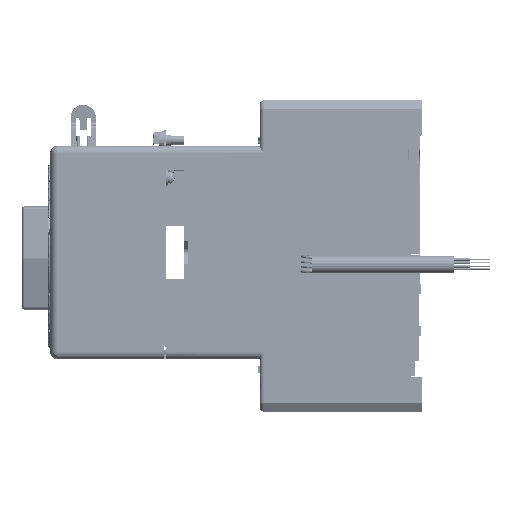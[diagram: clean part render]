
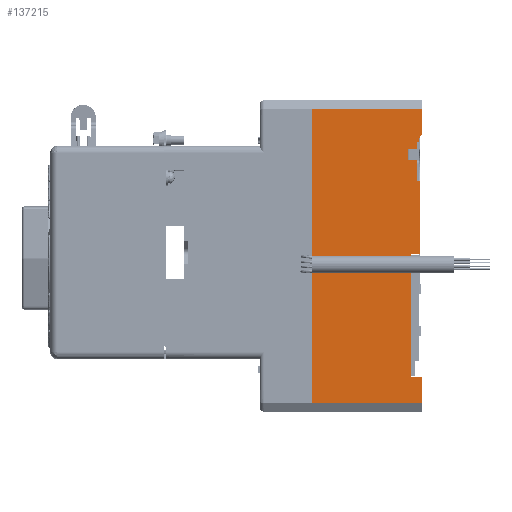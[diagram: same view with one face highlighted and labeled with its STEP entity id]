
A CAD part, left-side view. The second image highlights one B-rep face of the part: STEP entity #137215.
In plain terms, the highlighted planar face has unit normal (-1, 0, 0).
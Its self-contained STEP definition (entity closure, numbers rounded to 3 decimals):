
#6528 = CARTESIAN_POINT ( 'NONE',  ( -63.043, 38.596, 63.82 ) ) ;
#10931 = CARTESIAN_POINT ( 'NONE',  ( -63.043, 38.596, 60.23 ) ) ;
#19299 = ORIENTED_EDGE ( 'NONE', *, *, #37767, .T. ) ;
#19706 = DIRECTION ( 'NONE',  ( 0., -1., 0. ) ) ;
#19707 = VECTOR ( 'NONE', #19706, 1000. ) ;
#19708 = CARTESIAN_POINT ( 'NONE',  ( -63.043, 35.756, 63.82 ) ) ;
#19709 = LINE ( 'NONE', #19708, #19707 ) ;
#19741 = VERTEX_POINT ( 'NONE', #118109 ) ;
#20014 = EDGE_CURVE ( 'NONE', #20386, #19741, #118100, .T. ) ;
#20302 = ORIENTED_EDGE ( 'NONE', *, *, #20014, .T. ) ;
#20386 = VERTEX_POINT ( 'NONE', #118093 ) ;
#20761 = EDGE_CURVE ( 'NONE', #21222, #20386, #118082, .T. ) ;
#20985 = ORIENTED_EDGE ( 'NONE', *, *, #20761, .T. ) ;
#21222 = VERTEX_POINT ( 'NONE', #118074 ) ;
#21463 = ORIENTED_EDGE ( 'NONE', *, *, #21809, .T. ) ;
#21809 = EDGE_CURVE ( 'NONE', #22208, #21222, #118068, .T. ) ;
#22208 = VERTEX_POINT ( 'NONE', #118061 ) ;
#22229 = EDGE_CURVE ( 'NONE', #138218, #22208, #118056, .T. ) ;
#22462 = ORIENTED_EDGE ( 'NONE', *, *, #22229, .T. ) ;
#22617 = DIRECTION ( 'NONE',  ( 0., 0., 1. ) ) ;
#22618 = VECTOR ( 'NONE', #22617, 1000. ) ;
#22619 = CARTESIAN_POINT ( 'NONE',  ( -63.043, 38.596, -87.243 ) ) ;
#22620 = LINE ( 'NONE', #22619, #22618 ) ;
#35975 = ORIENTED_EDGE ( 'NONE', *, *, #36008, .T. ) ;
#36008 = EDGE_CURVE ( 'NONE', #36922, #137793, #120658, .T. ) ;
#36922 = VERTEX_POINT ( 'NONE', #120651 ) ;
#37767 = EDGE_CURVE ( 'NONE', #19741, #36922, #123618, .T. ) ;
#38719 = ORIENTED_EDGE ( 'NONE', *, *, #155150, .T. ) ;
#39954 = ORIENTED_EDGE ( 'NONE', *, *, #40040, .T. ) ;
#40040 = EDGE_CURVE ( 'NONE', #42016, #40207, #69755, .T. ) ;
#40207 = VERTEX_POINT ( 'NONE', #70112 ) ;
#41279 = DIRECTION ( 'NONE',  ( 0., -1., 0. ) ) ;
#41281 = VECTOR ( 'NONE', #41279, 1000. ) ;
#41283 = CARTESIAN_POINT ( 'NONE',  ( -63.043, 35.756, 60.23 ) ) ;
#41284 = LINE ( 'NONE', #41283, #41281 ) ;
#42016 = VERTEX_POINT ( 'NONE', #78205 ) ;
#43895 = EDGE_CURVE ( 'NONE', #64688, #42016, #88021, .T. ) ;
#46940 = ORIENTED_EDGE ( 'NONE', *, *, #43895, .T. ) ;
#64688 = VERTEX_POINT ( 'NONE', #161502 ) ;
#69748 = DIRECTION ( 'NONE',  ( 0., -0.5, 0.866 ) ) ;
#69749 = VECTOR ( 'NONE', #69748, 1000. ) ;
#69752 = CARTESIAN_POINT ( 'NONE',  ( -63.043, 37.826, 65.225 ) ) ;
#69755 = LINE ( 'NONE', #69752, #69749 ) ;
#70112 = CARTESIAN_POINT ( 'NONE',  ( -63.043, 35.756, 68.81 ) ) ;
#74001 = ORIENTED_EDGE ( 'NONE', *, *, #86380, .T. ) ;
#74031 = DIRECTION ( 'NONE',  ( 0., -1., 0. ) ) ;
#74032 = VECTOR ( 'NONE', #74031, 1000. ) ;
#74034 = CARTESIAN_POINT ( 'NONE',  ( -63.043, 35.756, -82.243 ) ) ;
#74036 = LINE ( 'NONE', #74034, #74032 ) ;
#74172 = DIRECTION ( 'NONE',  ( 0., 0., 1. ) ) ;
#74174 = DIRECTION ( 'NONE',  ( -1., 0., 0. ) ) ;
#74176 = CARTESIAN_POINT ( 'NONE',  ( -63.043, 35.756, -87.243 ) ) ;
#74179 = AXIS2_PLACEMENT_3D ( 'NONE', #74176, #74174, #74172 ) ;
#74184 = PLANE ( 'NONE',  #74179 ) ;
#74186 = FACE_OUTER_BOUND ( 'NONE', #137165, .T. ) ;
#74352 = DIRECTION ( 'NONE',  ( 0., 0., 1. ) ) ;
#74354 = VECTOR ( 'NONE', #74352, 1000. ) ;
#74356 = CARTESIAN_POINT ( 'NONE',  ( -63.043, 43.916, -87.243 ) ) ;
#74357 = LINE ( 'NONE', #74356, #74354 ) ;
#74370 = CARTESIAN_POINT ( 'NONE',  ( -63.043, 43.916, 60.23 ) ) ;
#74512 = LINE ( 'NONE', #74625, #74624 ) ;
#74521 = CARTESIAN_POINT ( 'NONE',  ( -63.043, 38.596, 53.72 ) ) ;
#74546 = DIRECTION ( 'NONE',  ( 0., 1., 0. ) ) ;
#74548 = VECTOR ( 'NONE', #74546, 1000. ) ;
#74551 = CARTESIAN_POINT ( 'NONE',  ( -63.043, 35.756, 53.72 ) ) ;
#74553 = LINE ( 'NONE', #74551, #74548 ) ;
#74564 = CARTESIAN_POINT ( 'NONE',  ( -63.043, 43.916, 53.72 ) ) ;
#74615 = CARTESIAN_POINT ( 'NONE',  ( -63.043, 35.756, -82.243 ) ) ;
#74618 = CARTESIAN_POINT ( 'NONE',  ( -63.043, 97.826, -82.243 ) ) ;
#74621 = CARTESIAN_POINT ( 'NONE',  ( -63.043, 38.596, 41.91 ) ) ;
#74623 = DIRECTION ( 'NONE',  ( 0., 0., 1. ) ) ;
#74624 = VECTOR ( 'NONE', #74623, 1000. ) ;
#74625 = CARTESIAN_POINT ( 'NONE',  ( -63.043, 38.596, -87.243 ) ) ;
#74819 = VERTEX_POINT ( 'NONE', #6528 ) ;
#77593 = ORIENTED_EDGE ( 'NONE', *, *, #89820, .T. ) ;
#78205 = CARTESIAN_POINT ( 'NONE',  ( -63.043, 37.826, 65.225 ) ) ;
#78498 = VERTEX_POINT ( 'NONE', #10931 ) ;
#82076 = LINE ( 'NONE', #82223, #82222 ) ;
#82085 = CARTESIAN_POINT ( 'NONE',  ( -63.043, 97.826, 82.242 ) ) ;
#82087 = DIRECTION ( 'NONE',  ( 0., 0., -1. ) ) ;
#82089 = VECTOR ( 'NONE', #82087, 1000. ) ;
#82092 = CARTESIAN_POINT ( 'NONE',  ( -63.043, 97.826, -87.243 ) ) ;
#82120 = LINE ( 'NONE', #82092, #82089 ) ;
#82217 = CARTESIAN_POINT ( 'NONE',  ( -63.043, 35.756, 82.242 ) ) ;
#82220 = DIRECTION ( 'NONE',  ( 0., 1., 0. ) ) ;
#82222 = VECTOR ( 'NONE', #82220, 1000. ) ;
#82223 = CARTESIAN_POINT ( 'NONE',  ( -63.043, 35.756, 82.242 ) ) ;
#82664 = DIRECTION ( 'NONE',  ( 0., 0., 1. ) ) ;
#82667 = VECTOR ( 'NONE', #82664, 1000. ) ;
#82670 = CARTESIAN_POINT ( 'NONE',  ( -63.043, 35.756, -87.243 ) ) ;
#82672 = LINE ( 'NONE', #82670, #82667 ) ;
#86380 = EDGE_CURVE ( 'NONE', #74819, #64688, #19709, .T. ) ;
#88021 = LINE ( 'NONE', #88184, #88182 ) ;
#88180 = DIRECTION ( 'NONE',  ( 0., 0., 1. ) ) ;
#88182 = VECTOR ( 'NONE', #88180, 1000. ) ;
#88184 = CARTESIAN_POINT ( 'NONE',  ( -63.043, 37.826, -87.243 ) ) ;
#89820 = EDGE_CURVE ( 'NONE', #78498, #74819, #22620, .T. ) ;
#105733 = EDGE_CURVE ( 'NONE', #137256, #78498, #41284, .T. ) ;
#118051 = DIRECTION ( 'NONE',  ( 0., 0., 1. ) ) ;
#118052 = VECTOR ( 'NONE', #118051, 1000. ) ;
#118054 = CARTESIAN_POINT ( 'NONE',  ( -63.043, 35.756, -87.243 ) ) ;
#118056 = LINE ( 'NONE', #118054, #118052 ) ;
#118061 = CARTESIAN_POINT ( 'NONE',  ( -63.043, 35.756, -68.03 ) ) ;
#118063 = DIRECTION ( 'NONE',  ( 0., 1., 0. ) ) ;
#118065 = VECTOR ( 'NONE', #118063, 1000. ) ;
#118067 = CARTESIAN_POINT ( 'NONE',  ( -63.043, 35.756, -68.03 ) ) ;
#118068 = LINE ( 'NONE', #118067, #118065 ) ;
#118074 = CARTESIAN_POINT ( 'NONE',  ( -63.043, 42.266, -68.03 ) ) ;
#118076 = DIRECTION ( 'NONE',  ( 0., 0., 1. ) ) ;
#118078 = VECTOR ( 'NONE', #118076, 1000. ) ;
#118081 = CARTESIAN_POINT ( 'NONE',  ( -63.043, 42.266, -87.243 ) ) ;
#118082 = LINE ( 'NONE', #118081, #118078 ) ;
#118093 = CARTESIAN_POINT ( 'NONE',  ( -63.043, 42.266, 1. ) ) ;
#118095 = DIRECTION ( 'NONE',  ( 0., -1., 0. ) ) ;
#118097 = VECTOR ( 'NONE', #118095, 1000. ) ;
#118099 = CARTESIAN_POINT ( 'NONE',  ( -63.043, 35.756, 1. ) ) ;
#118100 = LINE ( 'NONE', #118099, #118097 ) ;
#118109 = CARTESIAN_POINT ( 'NONE',  ( -63.043, 36.896, 1. ) ) ;
#120651 = CARTESIAN_POINT ( 'NONE',  ( -63.043, 36.896, 41.91 ) ) ;
#120653 = DIRECTION ( 'NONE',  ( 0., 1., 0. ) ) ;
#120654 = VECTOR ( 'NONE', #120653, 1000. ) ;
#120656 = CARTESIAN_POINT ( 'NONE',  ( -63.043, 35.756, 41.91 ) ) ;
#120658 = LINE ( 'NONE', #120656, #120654 ) ;
#123612 = DIRECTION ( 'NONE',  ( 0., 0., 1. ) ) ;
#123614 = VECTOR ( 'NONE', #123612, 1000. ) ;
#123616 = CARTESIAN_POINT ( 'NONE',  ( -63.043, 36.896, -87.243 ) ) ;
#123618 = LINE ( 'NONE', #123616, #123614 ) ;
#137165 = EDGE_LOOP ( 'NONE', ( #137166, #22462, #21463, #20985, #20302, #19299, #35975, #137794, #137263, #137261, #137253, #77593, #74001, #46940, #39954, #38719, #154704, #153842 ) ) ;
#137166 = ORIENTED_EDGE ( 'NONE', *, *, #137167, .T. ) ;
#137167 = EDGE_CURVE ( 'NONE', #138197, #138218, #74036, .T. ) ;
#137215 = ADVANCED_FACE ( 'NONE', ( #74186 ), #74184, .T. ) ;
#137253 = ORIENTED_EDGE ( 'NONE', *, *, #105733, .T. ) ;
#137256 = VERTEX_POINT ( 'NONE', #74370 ) ;
#137258 = EDGE_CURVE ( 'NONE', #137264, #137256, #74357, .T. ) ;
#137261 = ORIENTED_EDGE ( 'NONE', *, *, #137258, .T. ) ;
#137263 = ORIENTED_EDGE ( 'NONE', *, *, #137266, .T. ) ;
#137264 = VERTEX_POINT ( 'NONE', #74564 ) ;
#137266 = EDGE_CURVE ( 'NONE', #137459, #137264, #74553, .T. ) ;
#137459 = VERTEX_POINT ( 'NONE', #74521 ) ;
#137485 = EDGE_CURVE ( 'NONE', #137793, #137459, #74512, .T. ) ;
#137793 = VERTEX_POINT ( 'NONE', #74621 ) ;
#137794 = ORIENTED_EDGE ( 'NONE', *, *, #137485, .T. ) ;
#138197 = VERTEX_POINT ( 'NONE', #74618 ) ;
#138218 = VERTEX_POINT ( 'NONE', #74615 ) ;
#153842 = ORIENTED_EDGE ( 'NONE', *, *, #154264, .T. ) ;
#154264 = EDGE_CURVE ( 'NONE', #154464, #138197, #82120, .T. ) ;
#154464 = VERTEX_POINT ( 'NONE', #82085 ) ;
#154704 = ORIENTED_EDGE ( 'NONE', *, *, #154706, .T. ) ;
#154706 = EDGE_CURVE ( 'NONE', #154914, #154464, #82076, .T. ) ;
#154914 = VERTEX_POINT ( 'NONE', #82217 ) ;
#155150 = EDGE_CURVE ( 'NONE', #40207, #154914, #82672, .T. ) ;
#161502 = CARTESIAN_POINT ( 'NONE',  ( -63.043, 37.826, 63.82 ) ) ;
